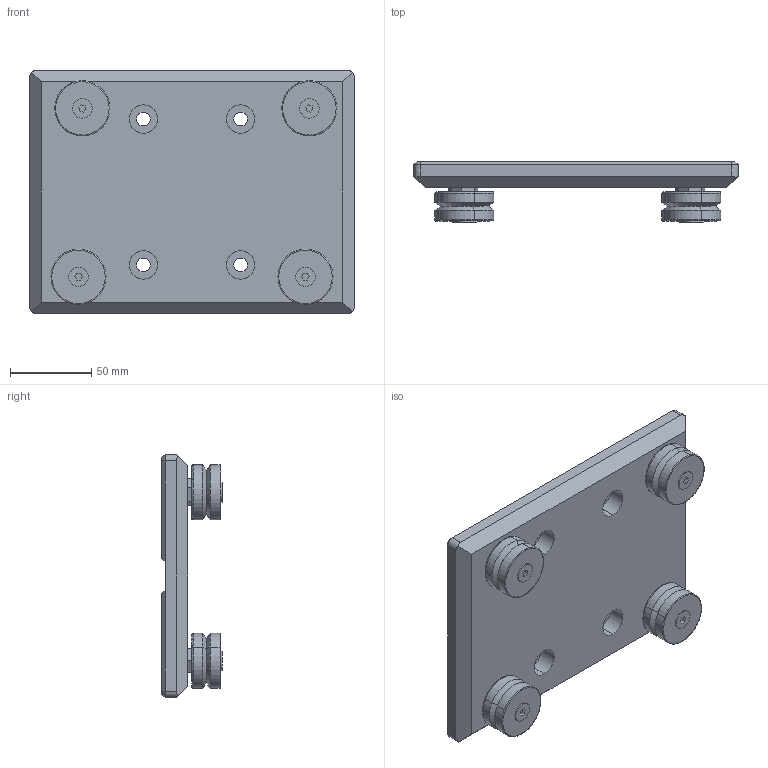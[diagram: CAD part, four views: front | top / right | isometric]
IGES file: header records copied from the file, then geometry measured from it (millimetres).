
Start section: 3D InterOp IGES (Version 21 0 1), Spatial Corp. Copyright (c) 1999-2007.
Global section: file name: RG-200(GS-76N).igs; native system: Spatial Corp.; preprocessor: 3D InterOp GENERIC/IGES 3.0; author: Noname; organization: Noname; date: 20220328.113607; units: millimetre
Bounding box: 200 x 37.3 x 150 mm (x, y, z)
Surface area: 97538.4 mm2 (no closed solid volume)
Topology: 0 solids, 0 shells, 350 faces, 1564 edges, 1556 vertices
Faces by surface type: revolution 200, extrusion 150
